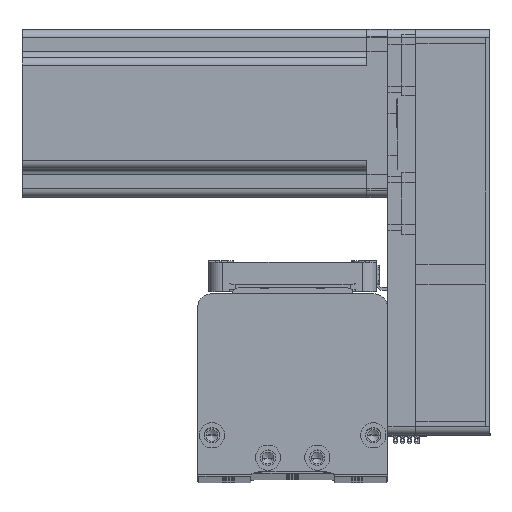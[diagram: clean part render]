
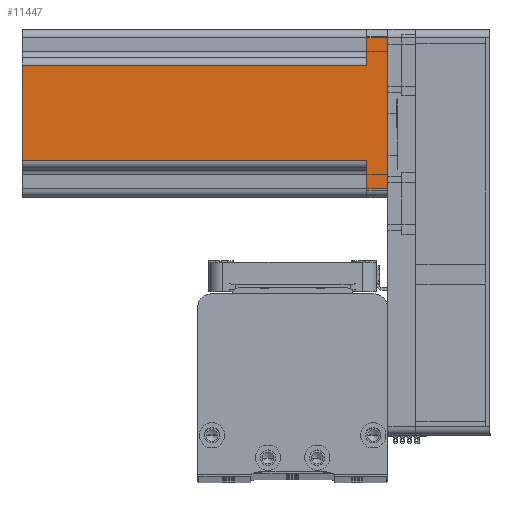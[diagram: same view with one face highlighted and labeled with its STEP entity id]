
A CAD part, top view. The second image highlights one B-rep face of the part: STEP entity #11447.
In plain terms, the highlighted planar face has unit normal (0, 0, 1) as drawn and (0, -1, 0) by its records, which use the part's own axes.
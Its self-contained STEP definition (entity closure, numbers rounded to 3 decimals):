
#308 = EDGE_CURVE ( 'NONE', #15499, #1825, #13742, .T. ) ;
#868 = CARTESIAN_POINT ( 'NONE',  ( -17., -30., 130.7 ) ) ;
#1531 = CARTESIAN_POINT ( 'NONE',  ( -27., -30., 0. ) ) ;
#1825 = VERTEX_POINT ( 'NONE', #11889 ) ;
#2117 = DIRECTION ( 'NONE',  ( 1., 0., 0. ) ) ;
#2354 = CARTESIAN_POINT ( 'NONE',  ( 27., -30., 0. ) ) ;
#3008 = VECTOR ( 'NONE', #35195, 1000. ) ;
#6290 = ORIENTED_EDGE ( 'NONE', *, *, #13647, .F. ) ;
#7286 = EDGE_CURVE ( 'NONE', #41346, #45591, #38532, .T. ) ;
#7385 = VECTOR ( 'NONE', #17210, 1000. ) ;
#7746 = DIRECTION ( 'NONE',  ( 0., 0., 1. ) ) ;
#8215 = CARTESIAN_POINT ( 'NONE',  ( 30., -30., 130.7 ) ) ;
#8240 = VERTEX_POINT ( 'NONE', #30480 ) ;
#10417 = FACE_OUTER_BOUND ( 'NONE', #31334, .T. ) ;
#10433 = VECTOR ( 'NONE', #25018, 1000. ) ;
#11447 = ADVANCED_FACE ( 'NONE', ( #10417 ), #20021, .F. ) ;
#11889 = CARTESIAN_POINT ( 'NONE',  ( 17., -30., 7.5 ) ) ;
#12242 = DIRECTION ( 'NONE',  ( -1., 0., 0. ) ) ;
#12516 = CARTESIAN_POINT ( 'NONE',  ( 27., -30., 130.7 ) ) ;
#13647 = EDGE_CURVE ( 'NONE', #8240, #32008, #29000, .T. ) ;
#13742 = LINE ( 'NONE', #31538, #3008 ) ;
#15499 = VERTEX_POINT ( 'NONE', #31710 ) ;
#16472 = VECTOR ( 'NONE', #16614, 1000. ) ;
#16614 = DIRECTION ( 'NONE',  ( 0., 0., 1. ) ) ;
#17210 = DIRECTION ( 'NONE',  ( 0., 0., -1. ) ) ;
#18428 = VECTOR ( 'NONE', #7746, 1000. ) ;
#18447 = EDGE_CURVE ( 'NONE', #20249, #15499, #39214, .T. ) ;
#19450 = CARTESIAN_POINT ( 'NONE',  ( -17., -30., 7.5 ) ) ;
#19845 = ORIENTED_EDGE ( 'NONE', *, *, #7286, .F. ) ;
#20021 = PLANE ( 'NONE',  #33941 ) ;
#20249 = VERTEX_POINT ( 'NONE', #2354 ) ;
#20481 = CARTESIAN_POINT ( 'NONE',  ( 30., -30., 130.7 ) ) ;
#21493 = CARTESIAN_POINT ( 'NONE',  ( -20., -30., 7.5 ) ) ;
#24513 = DIRECTION ( 'NONE',  ( 1., 0., 0. ) ) ;
#25018 = DIRECTION ( 'NONE',  ( 0., 0., -1. ) ) ;
#26437 = EDGE_CURVE ( 'NONE', #1825, #32008, #29215, .T. ) ;
#29000 = LINE ( 'NONE', #20481, #49154 ) ;
#29215 = LINE ( 'NONE', #35975, #18428 ) ;
#29493 = VECTOR ( 'NONE', #2117, 1000. ) ;
#30480 = CARTESIAN_POINT ( 'NONE',  ( -17., -30., 130.7 ) ) ;
#30925 = EDGE_CURVE ( 'NONE', #8240, #45591, #52081, .T. ) ;
#31334 = EDGE_LOOP ( 'NONE', ( #6290, #49492, #19845, #38885, #39327, #42149, #41046, #52214 ) ) ;
#31538 = CARTESIAN_POINT ( 'NONE',  ( 20., -30., 7.5 ) ) ;
#31710 = CARTESIAN_POINT ( 'NONE',  ( 27., -30., 7.5 ) ) ;
#32008 = VERTEX_POINT ( 'NONE', #49276 ) ;
#32679 = CARTESIAN_POINT ( 'NONE',  ( -27., -30., 7.5 ) ) ;
#33393 = EDGE_CURVE ( 'NONE', #41346, #46576, #49047, .T. ) ;
#33941 = AXIS2_PLACEMENT_3D ( 'NONE', #8215, #36474, #12242 ) ;
#35195 = DIRECTION ( 'NONE',  ( -1., 0., 0. ) ) ;
#35975 = CARTESIAN_POINT ( 'NONE',  ( 17., -30., 130.7 ) ) ;
#36474 = DIRECTION ( 'NONE',  ( 0., 1., 0. ) ) ;
#38532 = LINE ( 'NONE', #21493, #47982 ) ;
#38885 = ORIENTED_EDGE ( 'NONE', *, *, #33393, .T. ) ;
#39214 = LINE ( 'NONE', #12516, #16472 ) ;
#39327 = ORIENTED_EDGE ( 'NONE', *, *, #43084, .T. ) ;
#41046 = ORIENTED_EDGE ( 'NONE', *, *, #308, .T. ) ;
#41346 = VERTEX_POINT ( 'NONE', #32679 ) ;
#42149 = ORIENTED_EDGE ( 'NONE', *, *, #18447, .T. ) ;
#43084 = EDGE_CURVE ( 'NONE', #46576, #20249, #48377, .T. ) ;
#45390 = CARTESIAN_POINT ( 'NONE',  ( -27., -30., 130.7 ) ) ;
#45591 = VERTEX_POINT ( 'NONE', #19450 ) ;
#45644 = DIRECTION ( 'NONE',  ( 1., 0., 0. ) ) ;
#46576 = VERTEX_POINT ( 'NONE', #1531 ) ;
#47982 = VECTOR ( 'NONE', #45644, 1000. ) ;
#48377 = LINE ( 'NONE', #50657, #29493 ) ;
#49047 = LINE ( 'NONE', #45390, #7385 ) ;
#49154 = VECTOR ( 'NONE', #24513, 1000. ) ;
#49276 = CARTESIAN_POINT ( 'NONE',  ( 17., -30., 130.7 ) ) ;
#49492 = ORIENTED_EDGE ( 'NONE', *, *, #30925, .T. ) ;
#50657 = CARTESIAN_POINT ( 'NONE',  ( 30., -30., 0. ) ) ;
#52081 = LINE ( 'NONE', #868, #10433 ) ;
#52214 = ORIENTED_EDGE ( 'NONE', *, *, #26437, .T. ) ;
